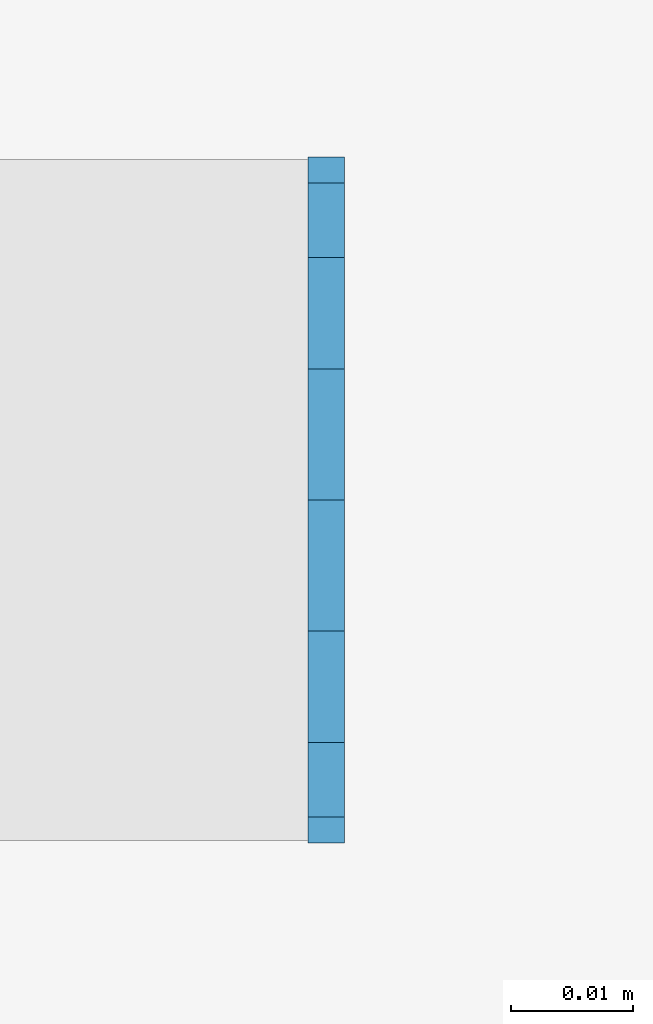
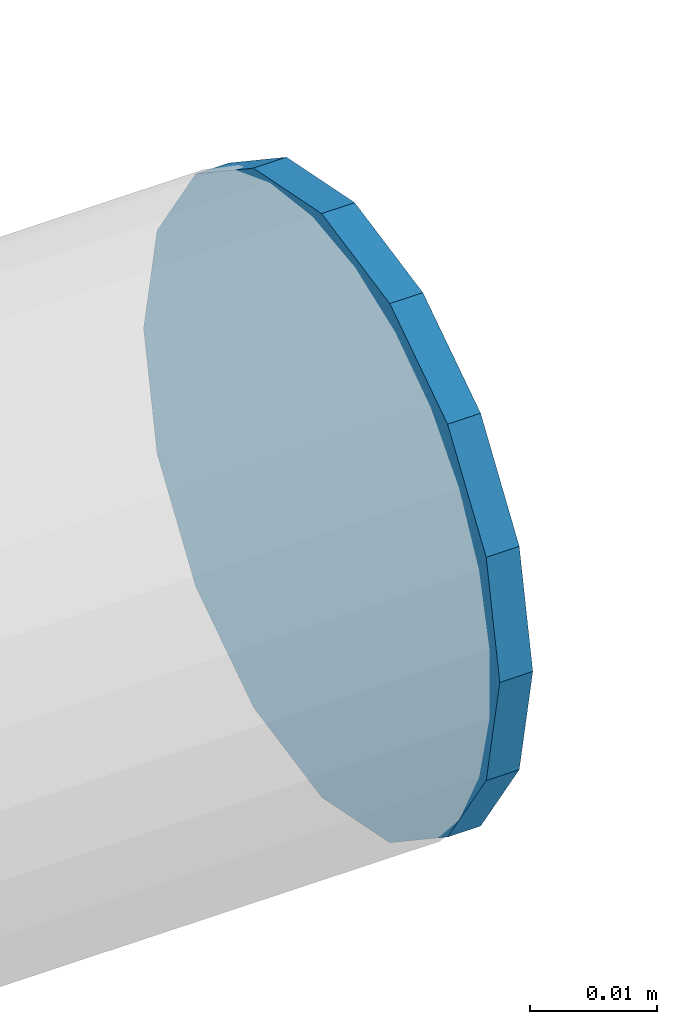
# One storey, part 55 of 230: 1 beam.
"""IFC4X3_ADD2 building model written with IfcOpenShell, lengths in millimetres."""

from ifc_helpers import new_model, si_unit, direction, frame, origin_with_axes, place, context, subcontext, project, spatial, indexed_curve, outline, extrude, material, element, save


model = new_model("IFC4X3_ADD2")

# Units and contexts
model_context = context("Model", 3, precision=1e-05, world=origin_with_axes(), true_north=direction((0.0, 1.0)))
body_context = subcontext(model_context, "Body", "Model", "MODEL_VIEW")
ifc_project = project(units=[si_unit("LENGTHUNIT", "METRE", prefix="MILLI"), si_unit("AREAUNIT", "SQUARE_METRE"), si_unit("VOLUMEUNIT", "CUBIC_METRE"), si_unit("PLANEANGLEUNIT", "RADIAN"), si_unit("TIMEUNIT", "SECOND"), si_unit("MASSUNIT", "GRAM")], contexts=[model_context])

# Site, building, storey
site_placement = place(None, origin_with_axes())
site = spatial("IfcSite", under=ifc_project, at=site_placement, Name="Site", CompositionType="ELEMENT")
building_placement = place(site_placement, origin_with_axes())
building = spatial("IfcBuilding", under=site, at=building_placement, Name="IFC Building Story")
storey_placement = place(building_placement, origin_with_axes())
storey = spatial("IfcBuildingStorey", under=building, at=storey_placement, Name="ETAGE 00 (0)", Elevation=0.0)

# Beam
ifc_material = material(Name="STEEL/Accessory 22919")
beam_placement = place(storey_placement, frame((22351.18920843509, 17649.9997253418, 1190.0), z_axis=(-1.0, 0.0, 0.0), x_axis=(0.0, 0.5555702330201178, 0.8314696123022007)))
element("IfcBeam", 1, at=beam_placement, inside=storey, material=ifc_material, Name="TA4", ObjectType="D56", context=body_context, shape_type="SweptSolid", body=[
    extrude(outline(indexed_curve([(23.28114914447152, 15.55596652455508), (27.46198785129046, 5.462529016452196), (27.46198785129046, -5.462529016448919), (23.28114914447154, -15.55596652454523), (15.55596652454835, -23.28114914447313), (5.462529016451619, -27.46198785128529), (-5.462529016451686, -27.46198785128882), (-15.55596652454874, -23.28114914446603), (-23.2811491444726, -15.55596652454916), (-27.46198785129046, -5.462529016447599), (-27.46198785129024, 5.462529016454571), (-23.28114914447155, 15.55596652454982), (-15.55596652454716, 23.28114914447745), (-5.462529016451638, 27.46198785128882), (5.462529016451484, 27.46198785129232), (15.55596652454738, 23.28114914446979), (23.28114914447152, 15.55596652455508)])), origin_with_axes(), (0.0, 0.0, 1.0), 2.999999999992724),
])

save(model, "model.ifc")
